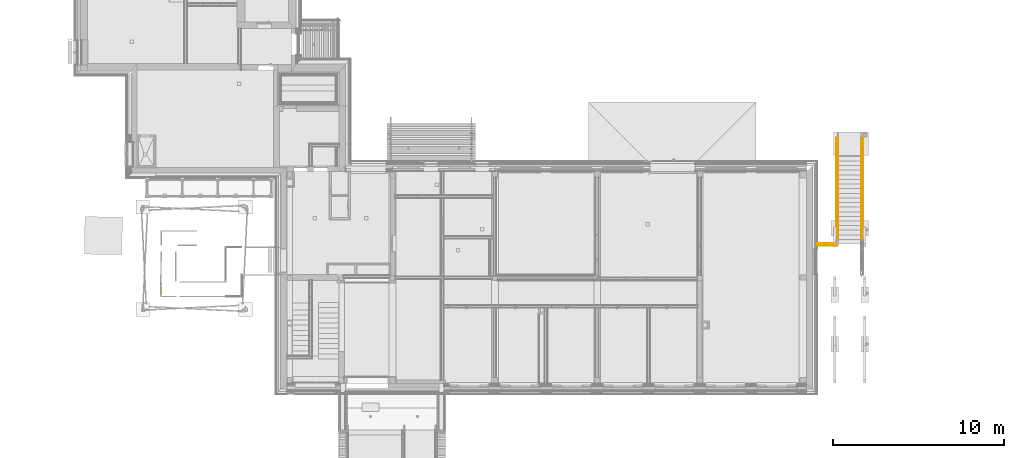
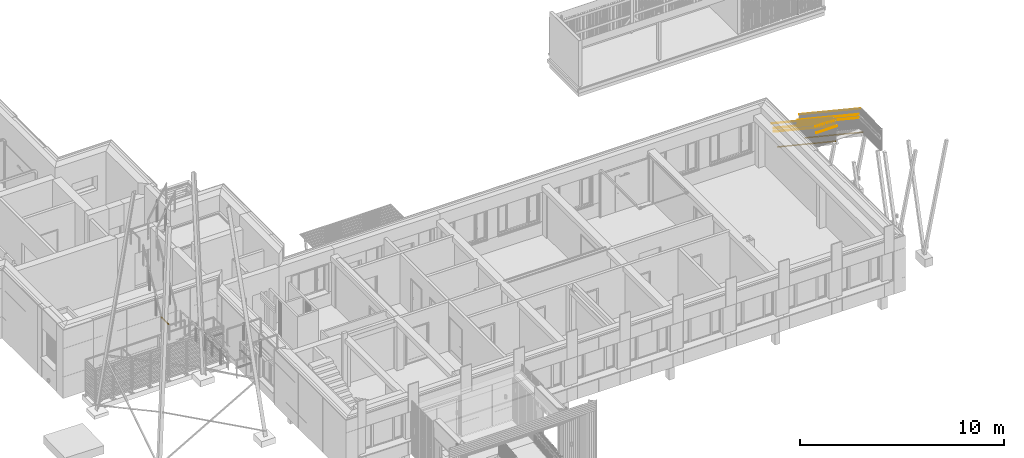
# One storey, part 170 of 418: 11 railings, 3 elements without a shape of their own.
"""IFC2X3 building model written with IfcOpenShell, lengths in millimetres."""

from ifc_helpers import new_model, entity, si_unit, converted_unit, derived_unit, money_unit, direction, frame, origin_with_axes, place, context, subcontext, project, spatial, faceted_brep, material, type_object, element, aggregate, save


model = new_model("IFC2X3")

# Units and contexts
model_context = context("Model", 3, precision=0.01, world=origin_with_axes(), true_north=direction((0.0, 1.0)))
body_context = subcontext(model_context, "Body", "Model", "MODEL_VIEW")
ifc_project = project(units=[si_unit("LENGTHUNIT", "METRE", prefix="MILLI"), si_unit("AREAUNIT", "SQUARE_METRE"), si_unit("VOLUMEUNIT", "CUBIC_METRE"), converted_unit("PLANEANGLEUNIT", "DEGREE", entity("IfcPlaneAngleMeasure", 0.0174532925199), si_unit("PLANEANGLEUNIT", "RADIAN"), dimensions=[0, 0, 0, 0, 0, 0, 0]), si_unit("SOLIDANGLEUNIT", "STERADIAN"), money_unit("EUR"), converted_unit("TIMEUNIT", "Year", entity("IfcTimeMeasure", 31556926.0), si_unit("TIMEUNIT", "SECOND"), dimensions=[0, 0, 1, 0, 0, 0, 0]), si_unit("MASSUNIT", "GRAM", prefix="KILO"), si_unit("THERMODYNAMICTEMPERATUREUNIT", "DEGREE_CELSIUS"), si_unit("LUMINOUSINTENSITYUNIT", "LUMEN"), si_unit("ENERGYUNIT", "JOULE", prefix="MEGA"), derived_unit("THERMALCONDUCTANCEUNIT", [(si_unit("POWERUNIT", "WATT"), 1), (si_unit("LENGTHUNIT", "METRE"), -1), (si_unit("THERMODYNAMICTEMPERATUREUNIT", "KELVIN"), -1)]), derived_unit("SPECIFICHEATCAPACITYUNIT", [(si_unit("ENERGYUNIT", "JOULE"), 1), (si_unit("MASSUNIT", "GRAM", prefix="KILO"), -1), (si_unit("THERMODYNAMICTEMPERATUREUNIT", "KELVIN"), -1)]), derived_unit("MASSDENSITYUNIT", [(si_unit("MASSUNIT", "GRAM", prefix="KILO"), 1), (si_unit("VOLUMEUNIT", "CUBIC_METRE"), -1)])], contexts=[model_context])

# Site, building, storey
site_placement = place(None, origin_with_axes())
site = spatial("IfcSite", under=ifc_project, at=site_placement, Name="Paldiski mnt 245/1, Tallinn, Harjumaa", CompositionType="COMPLEX")
building_placement = place(site_placement, origin_with_axes())
building = spatial("IfcBuilding", under=site, at=building_placement, Name="RKAS Hoone üldnimetus (kasutust iseloomustav) -> IFC Project Manager -> SOLIBRI", CompositionType="ELEMENT")
storey_placement = place(building_placement, origin_with_axes())
storey = spatial("IfcBuildingStorey", under=building, at=storey_placement, Name="Esimene korrus", CompositionType="ELEMENT", Elevation=0.0)

# Railings
railing_type_1 = type_object("IfcRailingType", Name="Railing Type", PredefinedType="NOTDEFINED")
railing_1_placement = place(storey_placement, frame((-15438.0000282, 781.88210964, -670.434782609), z_axis=(0.0, 0.0, 1.0), x_axis=(-0.773149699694, -0.634223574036, 0.0)))
railing_1 = element("IfcRailing", 1, at=railing_1_placement, inside=storey, type_object=railing_type_1, Name="Trepipiire", PredefinedType="NOTDEFINED")
ifc_material_1 = material(Name="RAL7016")
railing_type_2 = type_object("IfcRailingType", Name="IfcRailing", PredefinedType="GUARDRAIL")
railing_2_placement = place(railing_1_placement, frame((1216.01662627, 1442.96574093, 1173.07417596), z_axis=(0.0, 0.0, 1.0), x_axis=(-0.773149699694, 0.634223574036, 0.0)))
railing_2 = element("IfcRailing", 2, at=railing_2_placement, type_object=railing_type_2, material=ifc_material_1, PredefinedType="GUARDRAIL", context=body_context, shape_type="Brep", body=[
    faceted_brep([(-25.0000000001, -2966.85494007, 3973.17732242), (-24.9999999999, 2966.85494007, 26.9258240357), (-24.9999999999, 2961.31722437, 18.5991377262), (-25.0000000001, -2971.78070462, 3964.44365411), (24.9999999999, -2966.85494007, 3973.17732242), (25.0000000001, 2966.85494007, 26.9258240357), (25.0000000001, 2961.31722437, 18.5991377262), (24.9999999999, -2971.78070462, 3964.44365411)], [[[0, 1, 2, 3]], [[4, 5, 1, 0]], [[2, 1, 5, 6]], [[3, 2, 6, 7]], [[4, 0, 3, 7]], [[7, 6, 5, 4]]]),
])
railing_3_placement = place(railing_1_placement, frame((3708.17292683, 3561.00418107, 5123.50895857), z_axis=(0.0, 0.0, 1.0), x_axis=(-0.773149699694, 0.634223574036, 0.0)))
railing_3 = element("IfcRailing", 3, at=railing_3_placement, type_object=railing_type_2, material=ifc_material_1, PredefinedType="GUARDRAIL", context=body_context, shape_type="Brep", body=[
    faceted_brep([(533.499985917, -25.0, 26.9258240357), (533.499985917, 25.0, 26.9258240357), (-533.499985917, 25.0, 26.9258240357), (-533.499985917, -25.0, 26.9258240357), (533.499985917, 25.0, 16.9258240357), (533.499985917, -25.0, 16.9258240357), (-533.499985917, 25.0, 16.9258240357), (-533.499985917, -25.0, 16.9258240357)], [[[0, 1, 2, 3]], [[4, 1, 0, 5]], [[1, 4, 6, 2]], [[6, 7, 3, 2]], [[5, 0, 3, 7]], [[4, 5, 7, 6]]]),
])

railing_4_placement = place(storey_placement, frame((-13938.0000282, 1623.82640275, -670.434782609), z_axis=(0.0, 0.0, 1.0), x_axis=(0.773149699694, 0.634223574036, 0.0)))
railing_4 = element("IfcRailing", 4, at=railing_4_placement, inside=storey, type_object=railing_type_1, Name="Trepipiire", PredefinedType="NOTDEFINED")
railing_5_placement = place(railing_4_placement, frame((-1711.34006, -2125.62589701, 1173.07417596), z_axis=(0.0, 0.0, 1.0), x_axis=(0.773149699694, -0.634223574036, 0.0)))
railing_5 = element("IfcRailing", 5, at=railing_5_placement, type_object=railing_type_2, material=ifc_material_1, PredefinedType="GUARDRAIL", context=body_context, shape_type="Brep", body=[
    faceted_brep([(-25.0000000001, -2966.85494007, 3973.17732242), (-24.9999999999, 2966.85494007, 26.9258240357), (-24.9999999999, 2961.31722437, 18.5991377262), (-25.0000000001, -2971.78070462, 3964.44365411), (24.9999999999, -2966.85494007, 3973.17732242), (25.0000000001, 2966.85494007, 26.9258240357), (25.0000000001, 2961.31722437, 18.5991377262), (24.9999999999, -2971.78070462, 3964.44365411)], [[[0, 1, 2, 3]], [[4, 5, 1, 0]], [[2, 1, 5, 6]], [[3, 2, 6, 7]], [[4, 0, 3, 7]], [[7, 6, 5, 4]]]),
])

railing_6_placement = place(storey_placement, frame((-54114.8755361, -7423.92064935, 7119.375), z_axis=(0.0, 0.0, 1.0), x_axis=(-0.773149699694, -0.634223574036, 0.0)))
railing_6 = element("IfcRailing", 6, at=railing_6_placement, inside=storey, type_object=railing_type_1, Name="PIIRE", PredefinedType="NOTDEFINED")
ifc_material_2 = material(Name="ET-07_Teras - Roostevaba")
railing_7_placement = place(railing_6_placement, frame((383.105446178, -895.524259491, 744.098300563), z_axis=(0.0, 0.0, 1.0), x_axis=(-0.773149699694, 0.634223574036, 0.0)))
railing_7 = element("IfcRailing", 7, at=railing_7_placement, type_object=railing_type_2, material=ifc_material_2, Name="Piirde Ülaosa - 001", PredefinedType="GUARDRAIL", context=body_context, shape_type="Brep", body=[
    faceted_brep([(15.0, -390.725474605, 15.9016994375), (15.0, -390.725474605, 45.9016994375), (15.0, 390.725474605, 45.9016994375), (15.0, 390.725474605, 15.9016994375), (25.0, -390.725474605, 5.9016994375), (25.0, -390.725474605, 55.9016994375), (-25.0, -390.725474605, 55.9016994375), (-25.0, -390.725474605, 5.9016994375), (-15.0, -390.725474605, 45.9016994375), (-15.0, -390.725474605, 15.9016994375), (-15.0, 390.725474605, 45.9016994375), (25.0, 390.725474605, 5.9016994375), (-25.0, 390.725474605, 5.9016994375), (-25.0, 390.725474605, 55.9016994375), (25.0, 390.725474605, 55.9016994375), (-15.0, 390.725474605, 15.9016994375)], [[[0, 1, 2, 3]], [[4, 5, 6, 7], [8, 1, 0, 9]], [[1, 8, 10, 2]], [[11, 12, 13, 14], [10, 15, 3, 2]], [[9, 0, 3, 15]], [[5, 4, 11, 14]], [[6, 5, 14, 13]], [[7, 6, 13, 12]], [[4, 7, 12, 11]], [[8, 9, 15, 10]]]),
])
aggregate(railing_6, [railing_7])

railing_type_3 = type_object("IfcRailingType", Name="RAL7016 41", PredefinedType="NOTDEFINED")
railing_8_placement = place(storey_placement, frame((-13888.0000282, 1051.88210928, -399.524010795), z_axis=(0.0, 0.0, 1.0), x_axis=(-1.0, 0.0, 0.0)))
element("IfcRailing", 8, at=railing_8_placement, inside=storey, type_object=railing_type_3, material=ifc_material_1, Name="Trepi piire", PredefinedType="NOTDEFINED", context=body_context, shape_type="Brep", body=[
    faceted_brep([(1.36224187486e-06, -270.000001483, -130.475990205), (50.0, -270.000000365, -130.47598946), (50.0000000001, 5399.99999963, 3649.5240108), (0.0, 5399.99999963, 3649.5240108), (1.51070267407e-06, -257.788701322, -171.859134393), (50.0000003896, -257.788699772, -171.859133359), (50.0000003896, 5412.47631456, 3608.31754311), (-3.52029516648e-07, 5412.47631456, 3608.31754311)], [[[0, 1, 2, 3]], [[1, 0, 4, 5]], [[2, 1, 5, 6]], [[3, 2, 6, 7]], [[0, 3, 7, 4]], [[5, 4, 7, 6]]]),
])
railing_9_placement = place(storey_placement, frame((-15438.0000282, 1051.88210928, -399.524010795), z_axis=(0.0, 0.0, 1.0), x_axis=(-1.0, 0.0, 0.0)))
element("IfcRailing", 9, at=railing_9_placement, inside=storey, type_object=railing_type_3, material=ifc_material_1, Name="Trepi piire", PredefinedType="NOTDEFINED", context=body_context, shape_type="Brep", body=[
    faceted_brep([(50.0000000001, 5399.99999963, 3649.5240108), (0.0, 5399.99999963, 3649.5240108), (0.0, -270.000000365, -130.47598946), (49.9999847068, -270.000023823, -130.476005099), (50.0000003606, 5412.47631456, 3608.31754311), (-3.55436569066e-07, 5412.47631456, 3608.31754311), (-3.55436569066e-07, -257.788699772, -171.859133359), (49.9999845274, -257.788723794, -171.859149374)], [[[0, 1, 2, 3]], [[1, 0, 4, 5]], [[2, 1, 5, 6]], [[3, 2, 6, 7]], [[0, 3, 7, 4]], [[5, 4, 7, 6]]]),
])

# Railing
railing_type_4 = type_object("IfcRailingType", Name="IfcRailing", PredefinedType="HANDRAIL")
railing_10_placement = place(railing_1_placement, frame((1148.42782445, 1502.47746473, 655.27864045), z_axis=(0.0, 0.0, 1.0), x_axis=(-0.773149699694, 0.634223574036, 0.0)))
railing_10 = element("IfcRailing", 10, at=railing_10_placement, type_object=railing_type_4, material=ifc_material_2, Name="Piirde Käsipuu - 001", PredefinedType="HANDRAIL", context=body_context, shape_type="Brep", body=[
    faceted_brep([(20.0000000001, 2958.92456861, 28.0679869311), (19.6961550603, 2960.84779709, 30.9598147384), (19.6961550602, -2974.9939213, 3978.62910571), (19.9999999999, -2976.04333549, 3975.15614216), (19.6961550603, 2957.00134014, 25.1761591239), (18.7938524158, 2955.13654798, 22.3721980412), (17.3205080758, 2953.38685292, 19.7413006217), (15.3208888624, 2951.80541854, 17.3634053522), (12.8557521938, 2950.44029594, 15.3107633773), (10.0000000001, 2949.33296367, 13.6457431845), (6.84040286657, 2948.51706747, 12.41893557), (3.4729635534, 2948.01739791, 11.6676164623), (0.0, 2947.84913723, 11.4146143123), (-3.47296355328, 2948.01739791, 11.6676164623), (-6.84040286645, 2948.51706747, 12.41893557), (-9.99999999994, 2949.33296367, 13.6457431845), (-12.8557521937, 2950.44029594, 15.3107633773), (-15.3208888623, 2951.80541854, 17.3634053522), (-17.3205080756, 2953.38685292, 19.7413006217), (-18.7938524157, 2955.13654798, 22.3721980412), (-19.6961550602, 2957.00134014, 25.1761591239), (-19.9999999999, 2958.92456861, 28.0679869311), (-19.6961550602, 2960.84779709, 30.9598147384), (-18.7938524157, 2962.71258924, 33.7637758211), (-17.3205080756, 2964.46228431, 36.3946732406), (-15.3208888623, 2966.04371868, 38.77256851), (-12.8557521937, 2967.40884128, 40.825210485), (-9.99999999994, 2968.51617355, 42.4902306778), (-6.84040286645, 2969.33206976, 43.7170382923), (-3.47296355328, 2969.83173931, 44.4683574), (0.0, 2970.0, 44.72135955), (3.4729635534, 2969.83173931, 44.4683574), (6.84040286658, 2969.33206976, 43.7170382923), (10.0000000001, 2968.51617355, 42.4902306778), (12.8557521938, 2967.40884128, 40.825210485), (15.3208888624, 2966.04371868, 38.77256851), (17.3205080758, 2964.46228431, 36.3946732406), (18.7938524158, 2962.71258924, 33.7637758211), (18.7938524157, -2973.97639302, 3981.99654503), (17.3205080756, -2973.02166775, 3985.15614216), (15.3208888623, -2972.15875432, 3988.01189435), (12.8557521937, -2971.41387192, 3990.47703102), (9.99999999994, -2970.80965343, 3992.47665023), (6.84040286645, -2970.36445773, 3993.94999457), (3.47296355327, -2970.09181185, 3994.85229722), (0.0, -2970.0, 3995.15614216), (-3.4729635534, -2970.09181185, 3994.85229722), (-6.84040286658, -2970.36445773, 3993.94999457), (-10.0000000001, -2970.80965343, 3992.47665023), (-12.8557521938, -2971.41387192, 3990.47703102), (-15.3208888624, -2972.15875432, 3988.01189435), (-17.3205080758, -2973.02166775, 3985.15614216), (-18.7938524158, -2973.97639302, 3981.99654503), (-19.6961550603, -2974.9939213, 3978.62910571), (-20.0000000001, -2976.04333549, 3975.15614216), (-19.6961550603, -2977.09274969, 3971.68317861), (-18.7938524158, -2978.11027797, 3968.31573929), (-17.3205080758, -2979.06500324, 3965.15614216), (-15.3208888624, -2979.92791667, 3962.30038996), (-12.8557521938, -2980.67279907, 3959.8352533), (-10.0000000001, -2981.27701756, 3957.83563408), (-6.84040286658, -2981.72221326, 3956.36228974), (-3.4729635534, -2981.99485914, 3955.4599871), (0.0, -2982.08667099, 3955.15614216), (3.47296355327, -2981.99485914, 3955.4599871), (6.84040286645, -2981.72221326, 3956.36228974), (9.99999999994, -2981.27701756, 3957.83563408), (12.8557521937, -2980.67279907, 3959.8352533), (15.3208888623, -2979.92791667, 3962.30038996), (17.3205080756, -2979.06500324, 3965.15614216), (18.7938524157, -2978.11027797, 3968.31573929), (19.6961550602, -2977.09274969, 3971.68317861)], [[[0, 1, 2, 3]], [[0, 4, 5, 6, 7, 8, 9, 10, 11, 12, 13, 14, 15, 16, 17, 18, 19, 20, 21, 22, 23, 24, 25, 26, 27, 28, 29, 30, 31, 32, 33, 34, 35, 36, 37, 1]], [[1, 37, 38, 2]], [[3, 2, 38, 39, 40, 41, 42, 43, 44, 45, 46, 47, 48, 49, 50, 51, 52, 53, 54, 55, 56, 57, 58, 59, 60, 61, 62, 63, 64, 65, 66, 67, 68, 69, 70, 71]], [[4, 0, 3, 71]], [[5, 4, 71, 70]], [[6, 5, 70, 69]], [[7, 6, 69, 68]], [[8, 7, 68, 67]], [[9, 8, 67, 66]], [[10, 9, 66, 65]], [[11, 10, 65, 64]], [[12, 11, 64, 63]], [[13, 12, 63, 62]], [[14, 13, 62, 61]], [[15, 14, 61, 60]], [[16, 15, 60, 59]], [[17, 16, 59, 58]], [[18, 17, 58, 57]], [[19, 18, 57, 56]], [[20, 19, 56, 55]], [[21, 20, 55, 54]], [[22, 21, 54, 53]], [[23, 22, 53, 52]], [[24, 23, 52, 51]], [[25, 24, 51, 50]], [[26, 25, 50, 49]], [[27, 26, 49, 48]], [[28, 27, 48, 47]], [[29, 28, 47, 46]], [[30, 29, 46, 45]], [[31, 30, 45, 44]], [[32, 31, 44, 43]], [[33, 32, 43, 42]], [[34, 33, 42, 41]], [[35, 34, 41, 40]], [[36, 35, 40, 39]], [[37, 36, 39, 38]]]),
])

railing_11_placement = place(railing_1_placement, frame((1148.42782445, 1502.47746473, 855.27864045), z_axis=(0.0, 0.0, 1.0), x_axis=(-0.773149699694, 0.634223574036, 0.0)))
railing_11 = element("IfcRailing", 11, at=railing_11_placement, type_object=railing_type_4, material=ifc_material_2, Name="Piirde Käsipuu - 001", PredefinedType="HANDRAIL", context=body_context, shape_type="Brep", body=[
    faceted_brep([(20.0000000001, 2958.92456861, 28.0679869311), (19.6961550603, 2960.84779709, 30.9598147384), (19.6961550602, -2974.9939213, 3978.62910571), (19.9999999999, -2976.04333549, 3975.15614216), (19.6961550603, 2957.00134014, 25.1761591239), (18.7938524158, 2955.13654798, 22.3721980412), (17.3205080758, 2953.38685292, 19.7413006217), (15.3208888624, 2951.80541854, 17.3634053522), (12.8557521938, 2950.44029594, 15.3107633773), (10.0000000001, 2949.33296367, 13.6457431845), (6.84040286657, 2948.51706747, 12.41893557), (3.4729635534, 2948.01739791, 11.6676164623), (0.0, 2947.84913723, 11.4146143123), (-3.47296355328, 2948.01739791, 11.6676164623), (-6.84040286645, 2948.51706747, 12.41893557), (-9.99999999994, 2949.33296367, 13.6457431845), (-12.8557521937, 2950.44029594, 15.3107633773), (-15.3208888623, 2951.80541854, 17.3634053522), (-17.3205080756, 2953.38685292, 19.7413006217), (-18.7938524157, 2955.13654798, 22.3721980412), (-19.6961550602, 2957.00134014, 25.1761591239), (-19.9999999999, 2958.92456861, 28.0679869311), (-19.6961550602, 2960.84779709, 30.9598147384), (-18.7938524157, 2962.71258924, 33.7637758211), (-17.3205080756, 2964.46228431, 36.3946732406), (-15.3208888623, 2966.04371868, 38.77256851), (-12.8557521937, 2967.40884128, 40.825210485), (-9.99999999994, 2968.51617355, 42.4902306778), (-6.84040286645, 2969.33206976, 43.7170382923), (-3.47296355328, 2969.83173931, 44.4683574), (0.0, 2970.0, 44.72135955), (3.4729635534, 2969.83173931, 44.4683574), (6.84040286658, 2969.33206976, 43.7170382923), (10.0000000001, 2968.51617355, 42.4902306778), (12.8557521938, 2967.40884128, 40.825210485), (15.3208888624, 2966.04371868, 38.77256851), (17.3205080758, 2964.46228431, 36.3946732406), (18.7938524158, 2962.71258924, 33.7637758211), (18.7938524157, -2973.97639302, 3981.99654503), (17.3205080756, -2973.02166775, 3985.15614216), (15.3208888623, -2972.15875432, 3988.01189435), (12.8557521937, -2971.41387192, 3990.47703102), (9.99999999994, -2970.80965343, 3992.47665023), (6.84040286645, -2970.36445773, 3993.94999457), (3.47296355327, -2970.09181185, 3994.85229722), (0.0, -2970.0, 3995.15614216), (-3.4729635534, -2970.09181185, 3994.85229722), (-6.84040286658, -2970.36445773, 3993.94999457), (-10.0000000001, -2970.80965343, 3992.47665023), (-12.8557521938, -2971.41387192, 3990.47703102), (-15.3208888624, -2972.15875432, 3988.01189435), (-17.3205080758, -2973.02166775, 3985.15614216), (-18.7938524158, -2973.97639302, 3981.99654503), (-19.6961550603, -2974.9939213, 3978.62910571), (-20.0000000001, -2976.04333549, 3975.15614216), (-19.6961550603, -2977.09274969, 3971.68317861), (-18.7938524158, -2978.11027797, 3968.31573929), (-17.3205080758, -2979.06500324, 3965.15614216), (-15.3208888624, -2979.92791667, 3962.30038996), (-12.8557521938, -2980.67279907, 3959.8352533), (-10.0000000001, -2981.27701756, 3957.83563408), (-6.84040286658, -2981.72221326, 3956.36228974), (-3.4729635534, -2981.99485914, 3955.4599871), (0.0, -2982.08667099, 3955.15614216), (3.47296355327, -2981.99485914, 3955.4599871), (6.84040286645, -2981.72221326, 3956.36228974), (9.99999999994, -2981.27701756, 3957.83563408), (12.8557521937, -2980.67279907, 3959.8352533), (15.3208888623, -2979.92791667, 3962.30038996), (17.3205080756, -2979.06500324, 3965.15614216), (18.7938524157, -2978.11027797, 3968.31573929), (19.6961550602, -2977.09274969, 3971.68317861)], [[[0, 1, 2, 3]], [[0, 4, 5, 6, 7, 8, 9, 10, 11, 12, 13, 14, 15, 16, 17, 18, 19, 20, 21, 22, 23, 24, 25, 26, 27, 28, 29, 30, 31, 32, 33, 34, 35, 36, 37, 1]], [[1, 37, 38, 2]], [[3, 2, 38, 39, 40, 41, 42, 43, 44, 45, 46, 47, 48, 49, 50, 51, 52, 53, 54, 55, 56, 57, 58, 59, 60, 61, 62, 63, 64, 65, 66, 67, 68, 69, 70, 71]], [[4, 0, 3, 71]], [[5, 4, 71, 70]], [[6, 5, 70, 69]], [[7, 6, 69, 68]], [[8, 7, 68, 67]], [[9, 8, 67, 66]], [[10, 9, 66, 65]], [[11, 10, 65, 64]], [[12, 11, 64, 63]], [[13, 12, 63, 62]], [[14, 13, 62, 61]], [[15, 14, 61, 60]], [[16, 15, 60, 59]], [[17, 16, 59, 58]], [[18, 17, 58, 57]], [[19, 18, 57, 56]], [[20, 19, 56, 55]], [[21, 20, 55, 54]], [[22, 21, 54, 53]], [[23, 22, 53, 52]], [[24, 23, 52, 51]], [[25, 24, 51, 50]], [[26, 25, 50, 49]], [[27, 26, 49, 48]], [[28, 27, 48, 47]], [[29, 28, 47, 46]], [[30, 29, 46, 45]], [[31, 30, 45, 44]], [[32, 31, 44, 43]], [[33, 32, 43, 42]], [[34, 33, 42, 41]], [[35, 34, 41, 40]], [[36, 35, 40, 39]], [[37, 36, 39, 38]]]),
])

railing_12_placement = place(railing_1_placement, frame((3730.46131201, 3659.12771487, 4805.71342306), z_axis=(0.0, 0.0, 1.0), x_axis=(-0.773149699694, 0.634223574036, 0.0)))
railing_12 = element("IfcRailing", 12, at=railing_12_placement, type_object=railing_type_4, material=ifc_material_2, Name="Piirde Käsipuu - 001", PredefinedType="HANDRAIL", context=body_context, shape_type="Brep", body=[
    faceted_brep([(578.499985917, 19.6961550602, 28.1943231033), (578.499985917, 20.0, 24.72135955), (-578.499985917, 20.0, 24.72135955), (-578.499985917, 19.6961550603, 28.1943231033), (578.499985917, 19.6961550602, 21.2483959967), (578.499985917, 18.7938524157, 31.5617624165), (578.499985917, 17.3205080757, 34.72135955), (578.499985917, 15.3208888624, 37.5771117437), (578.499985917, 12.8557521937, 40.0422484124), (578.499985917, 9.99999999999, 42.0418676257), (578.499985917, 6.8404028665, 43.5152119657), (578.499985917, 3.47296355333, 44.4175146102), (578.499985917, 0.0, 44.72135955), (578.499985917, -3.47296355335, 44.4175146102), (578.499985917, -6.84040286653, 43.5152119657), (578.499985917, -10.0, 42.0418676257), (578.499985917, -12.8557521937, 40.0422484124), (578.499985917, -15.3208888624, 37.5771117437), (578.499985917, -17.3205080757, 34.72135955), (578.499985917, -18.7938524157, 31.5617624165), (578.499985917, -19.6961550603, 28.1943231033), (578.499985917, -20.0, 24.72135955), (578.499985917, -19.6961550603, 21.2483959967), (578.499985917, -18.7938524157, 17.8809566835), (578.499985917, -17.3205080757, 14.72135955), (578.499985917, -15.3208888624, 11.8656073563), (578.499985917, -12.8557521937, 9.40047068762), (578.499985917, -10.0, 7.40085147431), (578.499985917, -6.84040286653, 5.92750713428), (578.499985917, -3.47296355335, 5.02520448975), (578.499985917, 0.0, 4.72135955), (578.499985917, 3.47296355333, 5.02520448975), (578.499985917, 6.8404028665, 5.92750713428), (578.499985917, 9.99999999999, 7.40085147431), (578.499985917, 12.8557521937, 9.40047068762), (578.499985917, 15.3208888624, 11.8656073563), (578.499985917, 17.3205080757, 14.72135955), (578.499985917, 18.7938524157, 17.8809566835), (-578.499985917, 19.6961550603, 21.2483959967), (-578.499985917, -17.3205080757, 14.72135955), (-578.499985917, -18.7938524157, 17.8809566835), (-578.499985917, -19.6961550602, 21.2483959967), (-578.499985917, -20.0, 24.72135955), (-578.499985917, -19.6961550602, 28.1943231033), (-578.499985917, -18.7938524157, 31.5617624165), (-578.499985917, -17.3205080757, 34.72135955), (-578.499985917, -15.3208888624, 37.5771117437), (-578.499985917, -12.8557521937, 40.0422484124), (-578.499985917, -9.99999999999, 42.0418676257), (-578.499985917, -6.8404028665, 43.5152119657), (-578.499985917, -3.47296355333, 44.4175146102), (-578.499985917, 0.0, 44.72135955), (-578.499985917, 3.47296355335, 44.4175146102), (-578.499985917, 6.84040286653, 43.5152119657), (-578.499985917, 10.0, 42.0418676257), (-578.499985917, 12.8557521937, 40.0422484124), (-578.499985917, 15.3208888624, 37.5771117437), (-578.499985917, 17.3205080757, 34.72135955), (-578.499985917, 18.7938524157, 31.5617624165), (-578.499985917, 18.7938524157, 17.8809566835), (-578.499985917, 17.3205080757, 14.72135955), (-578.499985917, 15.3208888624, 11.8656073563), (-578.499985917, 12.8557521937, 9.40047068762), (-578.499985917, 10.0, 7.40085147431), (-578.499985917, 6.84040286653, 5.92750713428), (-578.499985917, 3.47296355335, 5.02520448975), (-578.499985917, 0.0, 4.72135955), (-578.499985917, -3.47296355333, 5.02520448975), (-578.499985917, -6.8404028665, 5.92750713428), (-578.499985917, -9.99999999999, 7.40085147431), (-578.499985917, -12.8557521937, 9.40047068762), (-578.499985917, -15.3208888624, 11.8656073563)], [[[0, 1, 2, 3]], [[4, 1, 0, 5, 6, 7, 8, 9, 10, 11, 12, 13, 14, 15, 16, 17, 18, 19, 20, 21, 22, 23, 24, 25, 26, 27, 28, 29, 30, 31, 32, 33, 34, 35, 36, 37]], [[1, 4, 38, 2]], [[39, 40, 41, 42, 43, 44, 45, 46, 47, 48, 49, 50, 51, 52, 53, 54, 55, 56, 57, 58, 3, 2, 38, 59, 60, 61, 62, 63, 64, 65, 66, 67, 68, 69, 70, 71]], [[5, 0, 3, 58]], [[6, 5, 58, 57]], [[7, 6, 57, 56]], [[8, 7, 56, 55]], [[9, 8, 55, 54]], [[10, 9, 54, 53]], [[11, 10, 53, 52]], [[12, 11, 52, 51]], [[13, 12, 51, 50]], [[14, 13, 50, 49]], [[15, 14, 49, 48]], [[16, 15, 48, 47]], [[17, 16, 47, 46]], [[18, 17, 46, 45]], [[19, 18, 45, 44]], [[20, 19, 44, 43]], [[21, 20, 43, 42]], [[22, 21, 42, 41]], [[23, 22, 41, 40]], [[24, 23, 40, 39]], [[25, 24, 39, 71]], [[26, 25, 71, 70]], [[27, 26, 70, 69]], [[28, 27, 69, 68]], [[29, 28, 68, 67]], [[30, 29, 67, 66]], [[31, 30, 66, 65]], [[32, 31, 65, 64]], [[33, 32, 64, 63]], [[34, 33, 63, 62]], [[35, 34, 62, 61]], [[36, 35, 61, 60]], [[37, 36, 60, 59]], [[4, 37, 59, 38]]]),
])

aggregate(railing_1, [railing_10, railing_11, railing_2, railing_12, railing_3])

railing_13_placement = place(railing_4_placement, frame((-1782.91820413, -2070.97737749, 655.27864045), z_axis=(0.0, 0.0, 1.0), x_axis=(0.773149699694, -0.634223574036, 0.0)))
railing_13 = element("IfcRailing", 13, at=railing_13_placement, type_object=railing_type_4, material=ifc_material_2, Name="Piirde Käsipuu - 001", PredefinedType="HANDRAIL", context=body_context, shape_type="Brep", body=[
    faceted_brep([(20.0000000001, 2958.92456861, 28.0679869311), (19.6961550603, 2960.84779709, 30.9598147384), (19.6961550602, -2974.9939213, 3978.62910571), (19.9999999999, -2976.04333549, 3975.15614216), (19.6961550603, 2957.00134014, 25.1761591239), (18.7938524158, 2955.13654798, 22.3721980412), (17.3205080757, 2953.38685292, 19.7413006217), (15.3208888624, 2951.80541854, 17.3634053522), (12.8557521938, 2950.44029594, 15.3107633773), (10.0000000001, 2949.33296367, 13.6457431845), (6.84040286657, 2948.51706747, 12.41893557), (3.4729635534, 2948.01739791, 11.6676164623), (0.0, 2947.84913723, 11.4146143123), (-3.47296355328, 2948.01739791, 11.6676164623), (-6.84040286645, 2948.51706747, 12.41893557), (-9.99999999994, 2949.33296367, 13.6457431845), (-12.8557521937, 2950.44029594, 15.3107633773), (-15.3208888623, 2951.80541854, 17.3634053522), (-17.3205080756, 2953.38685292, 19.7413006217), (-18.7938524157, 2955.13654798, 22.3721980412), (-19.6961550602, 2957.00134014, 25.1761591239), (-19.9999999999, 2958.92456861, 28.0679869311), (-19.6961550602, 2960.84779709, 30.9598147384), (-18.7938524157, 2962.71258924, 33.7637758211), (-17.3205080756, 2964.46228431, 36.3946732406), (-15.3208888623, 2966.04371868, 38.77256851), (-12.8557521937, 2967.40884128, 40.825210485), (-9.99999999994, 2968.51617355, 42.4902306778), (-6.84040286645, 2969.33206976, 43.7170382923), (-3.47296355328, 2969.83173931, 44.4683574), (0.0, 2970.0, 44.72135955), (3.4729635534, 2969.83173931, 44.4683574), (6.84040286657, 2969.33206976, 43.7170382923), (10.0000000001, 2968.51617355, 42.4902306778), (12.8557521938, 2967.40884128, 40.825210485), (15.3208888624, 2966.04371868, 38.77256851), (17.3205080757, 2964.46228431, 36.3946732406), (18.7938524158, 2962.71258924, 33.7637758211), (18.7938524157, -2973.97639302, 3981.99654503), (17.3205080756, -2973.02166775, 3985.15614216), (15.3208888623, -2972.15875432, 3988.01189435), (12.8557521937, -2971.41387192, 3990.47703102), (9.99999999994, -2970.80965343, 3992.47665023), (6.84040286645, -2970.36445773, 3993.94999457), (3.47296355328, -2970.09181185, 3994.85229722), (0.0, -2970.0, 3995.15614216), (-3.4729635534, -2970.09181185, 3994.85229722), (-6.84040286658, -2970.36445773, 3993.94999457), (-10.0000000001, -2970.80965343, 3992.47665023), (-12.8557521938, -2971.41387192, 3990.47703102), (-15.3208888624, -2972.15875432, 3988.01189435), (-17.3205080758, -2973.02166775, 3985.15614216), (-18.7938524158, -2973.97639302, 3981.99654503), (-19.6961550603, -2974.9939213, 3978.62910571), (-20.0000000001, -2976.04333549, 3975.15614216), (-19.6961550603, -2977.09274969, 3971.68317861), (-18.7938524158, -2978.11027797, 3968.31573929), (-17.3205080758, -2979.06500324, 3965.15614216), (-15.3208888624, -2979.92791667, 3962.30038996), (-12.8557521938, -2980.67279907, 3959.8352533), (-10.0000000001, -2981.27701756, 3957.83563408), (-6.84040286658, -2981.72221326, 3956.36228974), (-3.4729635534, -2981.99485914, 3955.4599871), (0.0, -2982.08667099, 3955.15614216), (3.47296355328, -2981.99485914, 3955.4599871), (6.84040286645, -2981.72221326, 3956.36228974), (9.99999999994, -2981.27701756, 3957.83563408), (12.8557521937, -2980.67279907, 3959.8352533), (15.3208888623, -2979.92791667, 3962.30038996), (17.3205080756, -2979.06500324, 3965.15614216), (18.7938524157, -2978.11027797, 3968.31573929), (19.6961550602, -2977.09274969, 3971.68317861)], [[[0, 1, 2, 3]], [[0, 4, 5, 6, 7, 8, 9, 10, 11, 12, 13, 14, 15, 16, 17, 18, 19, 20, 21, 22, 23, 24, 25, 26, 27, 28, 29, 30, 31, 32, 33, 34, 35, 36, 37, 1]], [[1, 37, 38, 2]], [[3, 2, 38, 39, 40, 41, 42, 43, 44, 45, 46, 47, 48, 49, 50, 51, 52, 53, 54, 55, 56, 57, 58, 59, 60, 61, 62, 63, 64, 65, 66, 67, 68, 69, 70, 71]], [[4, 0, 3, 71]], [[5, 4, 71, 70]], [[6, 5, 70, 69]], [[7, 6, 69, 68]], [[8, 7, 68, 67]], [[9, 8, 67, 66]], [[10, 9, 66, 65]], [[11, 10, 65, 64]], [[12, 11, 64, 63]], [[13, 12, 63, 62]], [[14, 13, 62, 61]], [[15, 14, 61, 60]], [[16, 15, 60, 59]], [[17, 16, 59, 58]], [[18, 17, 58, 57]], [[19, 18, 57, 56]], [[20, 19, 56, 55]], [[21, 20, 55, 54]], [[22, 21, 54, 53]], [[23, 22, 53, 52]], [[24, 23, 52, 51]], [[25, 24, 51, 50]], [[26, 25, 50, 49]], [[27, 26, 49, 48]], [[28, 27, 48, 47]], [[29, 28, 47, 46]], [[30, 29, 46, 45]], [[31, 30, 45, 44]], [[32, 31, 44, 43]], [[33, 32, 43, 42]], [[34, 33, 42, 41]], [[35, 34, 41, 40]], [[36, 35, 40, 39]], [[37, 36, 39, 38]]]),
])

railing_14_placement = place(railing_4_placement, frame((-1782.91820413, -2070.97737749, 855.27864045), z_axis=(0.0, 0.0, 1.0), x_axis=(0.773149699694, -0.634223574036, 0.0)))
railing_14 = element("IfcRailing", 14, at=railing_14_placement, type_object=railing_type_4, material=ifc_material_2, Name="Piirde Käsipuu - 001", PredefinedType="HANDRAIL", context=body_context, shape_type="Brep", body=[
    faceted_brep([(20.0000000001, 2958.92456861, 28.0679869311), (19.6961550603, 2960.84779709, 30.9598147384), (19.6961550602, -2974.9939213, 3978.62910571), (19.9999999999, -2976.04333549, 3975.15614216), (19.6961550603, 2957.00134014, 25.1761591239), (18.7938524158, 2955.13654798, 22.3721980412), (17.3205080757, 2953.38685292, 19.7413006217), (15.3208888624, 2951.80541854, 17.3634053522), (12.8557521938, 2950.44029594, 15.3107633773), (10.0000000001, 2949.33296367, 13.6457431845), (6.84040286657, 2948.51706747, 12.41893557), (3.4729635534, 2948.01739791, 11.6676164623), (0.0, 2947.84913723, 11.4146143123), (-3.47296355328, 2948.01739791, 11.6676164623), (-6.84040286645, 2948.51706747, 12.41893557), (-9.99999999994, 2949.33296367, 13.6457431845), (-12.8557521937, 2950.44029594, 15.3107633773), (-15.3208888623, 2951.80541854, 17.3634053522), (-17.3205080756, 2953.38685292, 19.7413006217), (-18.7938524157, 2955.13654798, 22.3721980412), (-19.6961550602, 2957.00134014, 25.1761591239), (-19.9999999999, 2958.92456861, 28.0679869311), (-19.6961550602, 2960.84779709, 30.9598147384), (-18.7938524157, 2962.71258924, 33.7637758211), (-17.3205080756, 2964.46228431, 36.3946732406), (-15.3208888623, 2966.04371868, 38.77256851), (-12.8557521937, 2967.40884128, 40.825210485), (-9.99999999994, 2968.51617355, 42.4902306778), (-6.84040286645, 2969.33206976, 43.7170382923), (-3.47296355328, 2969.83173931, 44.4683574), (0.0, 2970.0, 44.72135955), (3.4729635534, 2969.83173931, 44.4683574), (6.84040286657, 2969.33206976, 43.7170382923), (10.0000000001, 2968.51617355, 42.4902306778), (12.8557521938, 2967.40884128, 40.825210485), (15.3208888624, 2966.04371868, 38.77256851), (17.3205080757, 2964.46228431, 36.3946732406), (18.7938524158, 2962.71258924, 33.7637758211), (18.7938524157, -2973.97639302, 3981.99654503), (17.3205080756, -2973.02166775, 3985.15614216), (15.3208888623, -2972.15875432, 3988.01189435), (12.8557521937, -2971.41387192, 3990.47703102), (9.99999999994, -2970.80965343, 3992.47665023), (6.84040286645, -2970.36445773, 3993.94999457), (3.47296355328, -2970.09181185, 3994.85229722), (0.0, -2970.0, 3995.15614216), (-3.4729635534, -2970.09181185, 3994.85229722), (-6.84040286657, -2970.36445773, 3993.94999457), (-10.0000000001, -2970.80965343, 3992.47665023), (-12.8557521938, -2971.41387192, 3990.47703102), (-15.3208888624, -2972.15875432, 3988.01189435), (-17.3205080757, -2973.02166775, 3985.15614216), (-18.7938524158, -2973.97639302, 3981.99654503), (-19.6961550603, -2974.9939213, 3978.62910571), (-20.0000000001, -2976.04333549, 3975.15614216), (-19.6961550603, -2977.09274969, 3971.68317861), (-18.7938524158, -2978.11027797, 3968.31573929), (-17.3205080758, -2979.06500324, 3965.15614216), (-15.3208888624, -2979.92791667, 3962.30038996), (-12.8557521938, -2980.67279907, 3959.8352533), (-10.0000000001, -2981.27701756, 3957.83563408), (-6.84040286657, -2981.72221326, 3956.36228974), (-3.4729635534, -2981.99485914, 3955.4599871), (0.0, -2982.08667099, 3955.15614216), (3.47296355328, -2981.99485914, 3955.4599871), (6.84040286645, -2981.72221326, 3956.36228974), (9.99999999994, -2981.27701756, 3957.83563408), (12.8557521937, -2980.67279907, 3959.8352533), (15.3208888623, -2979.92791667, 3962.30038996), (17.3205080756, -2979.06500324, 3965.15614216), (18.7938524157, -2978.11027797, 3968.31573929), (19.6961550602, -2977.09274969, 3971.68317861)], [[[0, 1, 2, 3]], [[0, 4, 5, 6, 7, 8, 9, 10, 11, 12, 13, 14, 15, 16, 17, 18, 19, 20, 21, 22, 23, 24, 25, 26, 27, 28, 29, 30, 31, 32, 33, 34, 35, 36, 37, 1]], [[1, 37, 38, 2]], [[3, 2, 38, 39, 40, 41, 42, 43, 44, 45, 46, 47, 48, 49, 50, 51, 52, 53, 54, 55, 56, 57, 58, 59, 60, 61, 62, 63, 64, 65, 66, 67, 68, 69, 70, 71]], [[4, 0, 3, 71]], [[5, 4, 71, 70]], [[6, 5, 70, 69]], [[7, 6, 69, 68]], [[8, 7, 68, 67]], [[9, 8, 67, 66]], [[10, 9, 66, 65]], [[11, 10, 65, 64]], [[12, 11, 64, 63]], [[13, 12, 63, 62]], [[14, 13, 62, 61]], [[15, 14, 61, 60]], [[16, 15, 60, 59]], [[17, 16, 59, 58]], [[18, 17, 58, 57]], [[19, 18, 57, 56]], [[20, 19, 56, 55]], [[21, 20, 55, 54]], [[22, 21, 54, 53]], [[23, 22, 53, 52]], [[24, 23, 52, 51]], [[25, 24, 51, 50]], [[26, 25, 50, 49]], [[27, 26, 49, 48]], [[28, 27, 48, 47]], [[29, 28, 47, 46]], [[30, 29, 46, 45]], [[31, 30, 45, 44]], [[32, 31, 44, 43]], [[33, 32, 43, 42]], [[34, 33, 42, 41]], [[35, 34, 41, 40]], [[36, 35, 40, 39]], [[37, 36, 39, 38]]]),
])

aggregate(railing_4, [railing_13, railing_14, railing_5])

save(model, "model.ifc")
